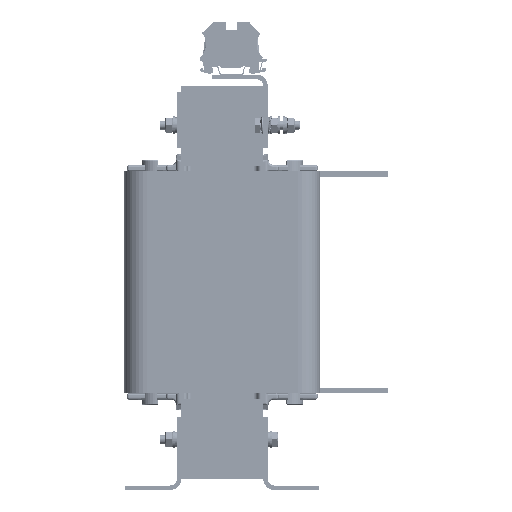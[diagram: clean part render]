
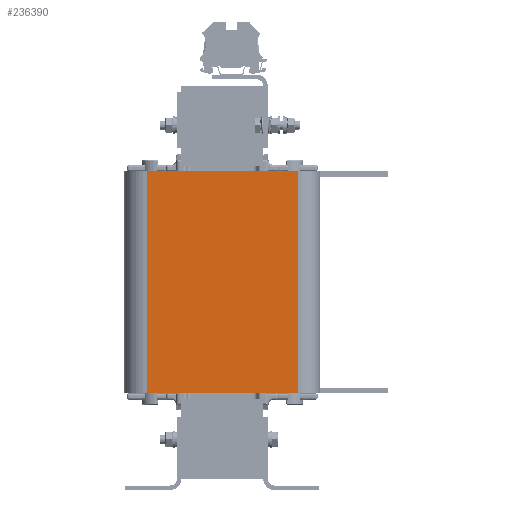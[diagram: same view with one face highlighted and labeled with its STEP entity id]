
A CAD part, left-side view. The second image highlights one B-rep face of the part: STEP entity #236390.
In plain terms, the highlighted planar face has unit normal (-1, 0, 0).
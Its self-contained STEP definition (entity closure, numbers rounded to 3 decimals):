
#230362=CARTESIAN_POINT('',(-221.45,-67.3,-98.975));
#230363=VERTEX_POINT('',#230362);
#230373=CARTESIAN_POINT('',(-221.45,67.3,-98.975));
#230374=VERTEX_POINT('',#230373);
#230375=CARTESIAN_POINT('',(-221.45,67.3,-98.975));
#230376=DIRECTION('',(0.0,-1.0,0.0));
#230377=VECTOR('',#230376,134.6);
#230378=LINE('',#230375,#230377);
#230379=EDGE_CURVE('',#230374,#230363,#230378,.T.);
#235753=CARTESIAN_POINT('',(-221.45,67.3,98.975));
#235754=VERTEX_POINT('',#235753);
#235764=CARTESIAN_POINT('',(-221.45,-67.3,98.975));
#235765=VERTEX_POINT('',#235764);
#235766=CARTESIAN_POINT('',(-221.45,-67.3,98.975));
#235767=DIRECTION('',(0.0,1.0,0.0));
#235768=VECTOR('',#235767,134.6);
#235769=LINE('',#235766,#235768);
#235770=EDGE_CURVE('',#235765,#235754,#235769,.T.);
#236260=CARTESIAN_POINT('',(-221.45,-67.3,-98.975));
#236261=DIRECTION('',(0.0,0.0,1.0));
#236262=VECTOR('',#236261,197.95);
#236263=LINE('',#236260,#236262);
#236264=EDGE_CURVE('',#230363,#235765,#236263,.T.);
#236368=CARTESIAN_POINT('',(-221.45,67.3,98.975));
#236369=DIRECTION('',(0.0,0.0,-1.0));
#236370=VECTOR('',#236369,197.95);
#236371=LINE('',#236368,#236370);
#236372=EDGE_CURVE('',#235754,#230374,#236371,.T.);
#236379=CARTESIAN_POINT('',(-221.45,67.3,0.0));
#236380=DIRECTION('',(-1.0,0.0,0.0));
#236381=DIRECTION('',(0.0,0.0,-1.0));
#236382=AXIS2_PLACEMENT_3D('',#236379,#236380,#236381);
#236383=PLANE('',#236382);
#236384=ORIENTED_EDGE('',*,*,#230379,.T.);
#236385=ORIENTED_EDGE('',*,*,#236264,.T.);
#236386=ORIENTED_EDGE('',*,*,#235770,.T.);
#236387=ORIENTED_EDGE('',*,*,#236372,.T.);
#236388=EDGE_LOOP('',(#236384,#236385,#236386,#236387));
#236389=FACE_OUTER_BOUND('',#236388,.T.);
#236390=ADVANCED_FACE('',(#236389),#236383,.T.);
